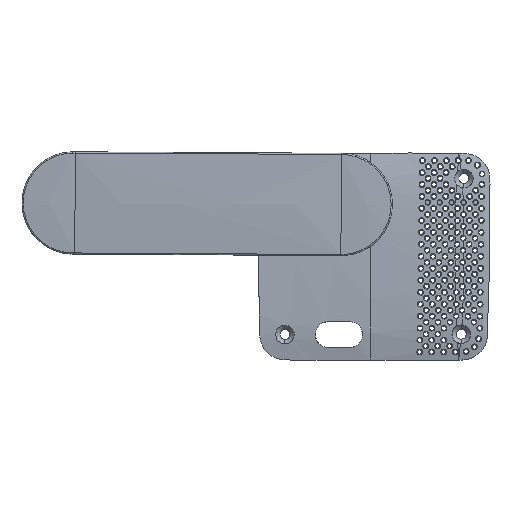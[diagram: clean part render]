
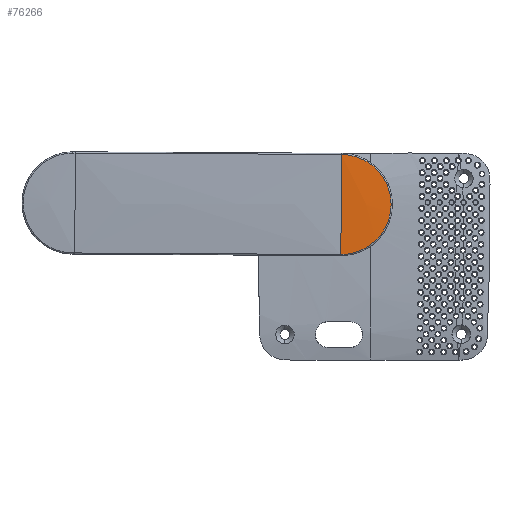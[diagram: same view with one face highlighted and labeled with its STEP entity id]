
A CAD part, left-side view. The second image highlights one B-rep face of the part: STEP entity #76266.
In plain terms, the highlighted free-form (B-spline) face has degree [2, 2] with [3, 3] control points.
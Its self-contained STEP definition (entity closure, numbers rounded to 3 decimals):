
#1642 = CARTESIAN_POINT ( 'NONE',  ( -13.523, 0., 4.657 ) ) ;
#3416 = CARTESIAN_POINT ( 'NONE',  ( -8.941, 10.186, 4.55 ) ) ;
#6125 = FACE_OUTER_BOUND ( 'NONE', #18852, .T. ) ;
#6884 = EDGE_CURVE ( 'NONE', #57670, #9583, #57135, .T. ) ;
#8228 = CARTESIAN_POINT ( 'NONE',  ( -9.875, 9.25, 4.571 ) ) ;
#9583 = VERTEX_POINT ( 'NONE', #76966 ) ;
#9943 = CARTESIAN_POINT ( 'NONE',  ( -11.737, 6.772, 4.614 ) ) ;
#10225 = CARTESIAN_POINT ( 'NONE',  ( -3.517, -13.072, 4.593 ) ) ;
#11937 = CARTESIAN_POINT ( 'NONE',  ( -6.768, -11.725, 4.592 ) ) ;
#12800 = CARTESIAN_POINT ( 'NONE',  ( -13.523, 0., 4.657 ) ) ;
#14806 = VERTEX_POINT ( 'NONE', #79654 ) ;
#14987 = CARTESIAN_POINT ( 'NONE',  ( 0., -13.531, 4.612 ) ) ;
#15599 = CARTESIAN_POINT ( 'NONE',  ( -1.776, 13.446, 4.431 ) ) ;
#18852 = EDGE_LOOP ( 'NONE', ( #50926, #79827, #38270 ) ) ;
#19135 = CARTESIAN_POINT ( 'NONE',  ( 1.399, 0.012, 5.106 ) ) ;
#19297 = CARTESIAN_POINT ( 'NONE',  ( -11., -7.887, 4.621 ) ) ;
#20566 = CARTESIAN_POINT ( 'NONE',  ( -10.735, -8.245, 4.618 ) ) ;
#22956 = CARTESIAN_POINT ( 'NONE',  ( -13.069, 3.496, 4.646 ) ) ;
#23378 = CARTESIAN_POINT ( 'NONE',  ( -0.893, 13.534, 4.422 ) ) ;
#24939 = CARTESIAN_POINT ( 'NONE',  ( -4.362, -12.815, 4.591 ) ) ;
#27783 = CARTESIAN_POINT ( 'NONE',  ( -7.01, -14.009, 4.554 ) ) ;
#28178 = CARTESIAN_POINT ( 'NONE',  ( -13.523, 0., 4.657 ) ) ;
#28427 = CARTESIAN_POINT ( 'NONE',  ( 0., 13.535, 4.415 ) ) ;
#28607 = CARTESIAN_POINT ( 'NONE',  ( -8.261, 10.747, 4.536 ) ) ;
#29471 = CARTESIAN_POINT ( 'NONE',  ( -10.737, 8.232, 4.59 ) ) ;
#29892 = CARTESIAN_POINT ( 'NONE',  ( -5.99, 12.138, 4.493 ) ) ;
#34005 = CARTESIAN_POINT ( 'NONE',  ( -13.436, -1.773, 4.656 ) ) ;
#34294 = CARTESIAN_POINT ( 'NONE',  ( -7.016, 0.012, 5.124 ) ) ;
#34689 = CARTESIAN_POINT ( 'NONE',  ( -12.661, 4.767, 4.636 ) ) ;
#36642 = EDGE_CURVE ( 'NONE', #14806, #57670, #51212, .T. ) ;
#36692 = CARTESIAN_POINT ( 'NONE',  ( -8.259, -10.754, 4.597 ) ) ;
#38270 = ORIENTED_EDGE ( 'NONE', *, *, #6884, .F. ) ;
#40829 = CARTESIAN_POINT ( 'NONE',  ( -15.428, 0.012, 4.921 ) ) ;
#42499 = CARTESIAN_POINT ( 'NONE',  ( -3.087, 13.183, 4.448 ) ) ;
#42930 = CARTESIAN_POINT ( 'NONE',  ( -10.172, 8.922, 4.578 ) ) ;
#45348 = CARTESIAN_POINT ( 'NONE',  ( -10.17, -8.933, 4.612 ) ) ;
#45625 = CARTESIAN_POINT ( 'NONE',  ( 1.404, -14.009, 4.604 ) ) ;
#45782 = CARTESIAN_POINT ( 'NONE',  ( -12.829, -4.375, 4.645 ) ) ;
#46053 = CARTESIAN_POINT ( 'NONE',  ( -7.009, 14.029, 4.465 ) ) ;
#49024 = CARTESIAN_POINT ( 'NONE',  ( 0., 13.535, 4.415 ) ) ;
#49443 = CARTESIAN_POINT ( 'NONE',  ( -7.154, 11.489, 4.514 ) ) ;
#50151 = CARTESIAN_POINT ( 'NONE',  ( -9.873, -9.261, 4.609 ) ) ;
#50926 = ORIENTED_EDGE ( 'NONE', *, *, #36642, .F. ) ;
#51003 = CARTESIAN_POINT ( 'NONE',  ( 0., -13.531, 4.612 ) ) ;
#51212 = B_SPLINE_CURVE_WITH_KNOTS ( 'NONE', 3,
 ( #51003, #84879, #57958, #84448, #10225, #24939, #51430, #63187, #77926, #11937, #78351, #36692, #83150, #50151, #45348, #20566, #19297, #53986, #71843, #45782, #52706, #34005, #80478, #12800 ),
 .UNSPECIFIED., .F., .F.,
 ( 4, 2, 2, 2, 2, 2, 2, 2, 2, 2, 2, 4 ),
 ( 0., 0.003, 0.004, 0.005, 0.007, 0.008, 0.011, 0.012, 0.013, 0.016, 0.019, 0.021 ),
 .UNSPECIFIED. ) ;
#51430 = CARTESIAN_POINT ( 'NONE',  ( -4.777, -12.667, 4.59 ) ) ;
#52556 = CARTESIAN_POINT ( 'NONE',  ( -15.422, -14.01, 4.301 ) ) ;
#52706 = CARTESIAN_POINT ( 'NONE',  ( -13.091, -3.511, 4.65 ) ) ;
#53986 = CARTESIAN_POINT ( 'NONE',  ( -11.736, -6.786, 4.629 ) ) ;
#54671 = CARTESIAN_POINT ( 'NONE',  ( -13.434, 1.771, 4.654 ) ) ;
#57135 = B_SPLINE_CURVE_WITH_KNOTS ( 'NONE', 3,
 ( #28178, #69416, #54671, #82872, #22956, #61201, #34689, #62913, #9943, #68571, #29471, #42930, #8228, #3416, #28607, #49443, #82449, #29892, #74650, #61631, #81158, #76365, #42499, #15599, #23378, #49024 ),
 .UNSPECIFIED., .F., .F.,
 ( 4, 2, 2, 2, 2, 2, 2, 2, 2, 2, 2, 2, 4 ),
 ( 0., 0.003, 0.004, 0.005, 0.008, 0.009, 0.011, 0.013, 0.015, 0.016, 0.017, 0.018, 0.021 ),
 .UNSPECIFIED. ) ;
#57670 = VERTEX_POINT ( 'NONE', #1642 ) ;
#57958 = CARTESIAN_POINT ( 'NONE',  ( -1.775, -13.441, 4.6 ) ) ;
#59516 = CARTESIAN_POINT ( 'NONE',  ( -15.422, 14.029, 4.312 ) ) ;
#60808 = CARTESIAN_POINT ( 'NONE',  ( 1.407, 14.029, 4.378 ) ) ;
#61201 = CARTESIAN_POINT ( 'NONE',  ( -12.812, 4.345, 4.639 ) ) ;
#61454 = CARTESIAN_POINT ( 'NONE',  ( 0., 4.893, 4.844 ) ) ;
#61631 = CARTESIAN_POINT ( 'NONE',  ( -4.779, 12.665, 4.473 ) ) ;
#62913 = CARTESIAN_POINT ( 'NONE',  ( -12.152, 5.995, 4.623 ) ) ;
#63187 = CARTESIAN_POINT ( 'NONE',  ( -5.59, -12.33, 4.59 ) ) ;
#68391 = CARTESIAN_POINT ( 'NONE',  ( 0., -4.128, 4.942 ) ) ;
#68571 = CARTESIAN_POINT ( 'NONE',  ( -11.002, 7.874, 4.596 ) ) ;
#68896 = B_SPLINE_CURVE_WITH_KNOTS ( 'NONE', 3,
 ( #14987, #68391, #61454, #28427 ),
 .UNSPECIFIED., .F., .F.,
 ( 4, 4 ),
 ( 0.011, 0.988 ),
 .UNSPECIFIED. ) ;
#69416 = CARTESIAN_POINT ( 'NONE',  ( -13.522, 0.893, 4.657 ) ) ;
#71843 = CARTESIAN_POINT ( 'NONE',  ( -12.151, -6.01, 4.635 ) ) ;
#73138 = B_SPLINE_SURFACE_WITH_KNOTS ( 'NONE', 2, 2, ( 
 ( #59516, #40829, #52556 ),
 ( #46053, #34294, #27783 ),
 ( #60808, #19135, #45625 ) ),
 .UNSPECIFIED., .F., .F., .F.,
 ( 3, 3 ),
 ( 3, 3 ),
 ( 0., 1. ),
 ( 0., 1. ),
 .UNSPECIFIED. ) ;
#74650 = CARTESIAN_POINT ( 'NONE',  ( -5.592, 12.327, 4.486 ) ) ;
#76266 = ADVANCED_FACE ( 'NONE', ( #6125 ), #73138, .F. ) ;
#76365 = CARTESIAN_POINT ( 'NONE',  ( -3.519, 13.073, 4.454 ) ) ;
#76921 = EDGE_CURVE ( 'NONE', #14806, #9583, #68896, .T. ) ;
#76966 = CARTESIAN_POINT ( 'NONE',  ( 0., 13.535, 4.415 ) ) ;
#77926 = CARTESIAN_POINT ( 'NONE',  ( -5.988, -12.142, 4.59 ) ) ;
#78351 = CARTESIAN_POINT ( 'NONE',  ( -7.151, -11.495, 4.593 ) ) ;
#79654 = CARTESIAN_POINT ( 'NONE',  ( 0., -13.531, 4.612 ) ) ;
#79827 = ORIENTED_EDGE ( 'NONE', *, *, #76921, .T. ) ;
#80478 = CARTESIAN_POINT ( 'NONE',  ( -13.523, -0.892, 4.657 ) ) ;
#81158 = CARTESIAN_POINT ( 'NONE',  ( -4.365, 12.815, 4.466 ) ) ;
#82449 = CARTESIAN_POINT ( 'NONE',  ( -6.77, 11.72, 4.507 ) ) ;
#82872 = CARTESIAN_POINT ( 'NONE',  ( -13.176, 3.067, 4.648 ) ) ;
#83150 = CARTESIAN_POINT ( 'NONE',  ( -8.939, -10.195, 4.602 ) ) ;
#84448 = CARTESIAN_POINT ( 'NONE',  ( -3.084, -13.181, 4.594 ) ) ;
#84879 = CARTESIAN_POINT ( 'NONE',  ( -0.892, -13.528, 4.605 ) ) ;
